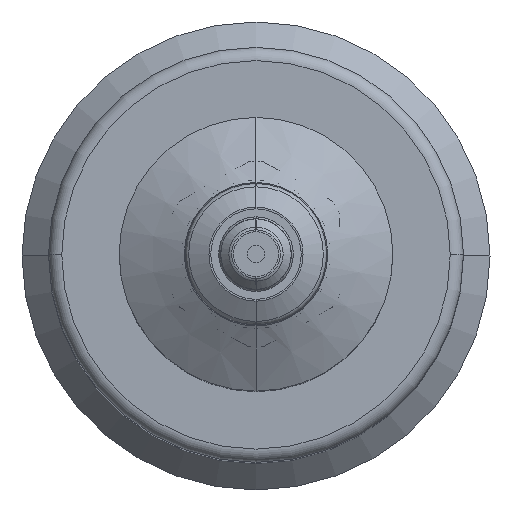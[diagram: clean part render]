
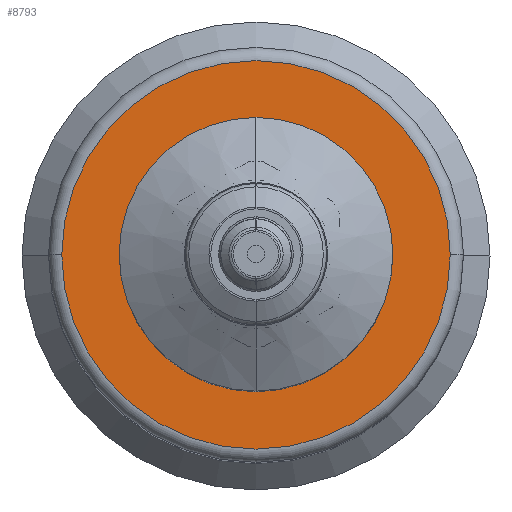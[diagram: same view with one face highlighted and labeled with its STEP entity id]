
A CAD part, top view. The second image highlights one B-rep face of the part: STEP entity #8793.
In plain terms, the highlighted planar face has unit normal (0, 0, 1).
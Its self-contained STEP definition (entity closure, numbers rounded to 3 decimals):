
#548 = CARTESIAN_POINT ( 'NONE',  ( 0., 0., 195. ) ) ;
#561 = AXIS2_PLACEMENT_3D ( 'NONE', #581, #11638, #2201 ) ;
#581 = CARTESIAN_POINT ( 'NONE',  ( 0., 0., 195. ) ) ;
#1373 = CARTESIAN_POINT ( 'NONE',  ( 0., 0., 195. ) ) ;
#1962 = CARTESIAN_POINT ( 'NONE',  ( -44., 0., 195. ) ) ;
#2173 = DIRECTION ( 'NONE',  ( 1., 0., 0. ) ) ;
#2201 = DIRECTION ( 'NONE',  ( 1., 0., 0. ) ) ;
#2374 = FACE_OUTER_BOUND ( 'NONE', #19305, .T. ) ;
#2421 = ORIENTED_EDGE ( 'NONE', *, *, #16399, .F. ) ;
#2963 = DIRECTION ( 'NONE',  ( 1., 0., 0. ) ) ;
#2996 = CARTESIAN_POINT ( 'NONE',  ( 31., 0., 195. ) ) ;
#3254 = CARTESIAN_POINT ( 'NONE',  ( 0., 0., 195. ) ) ;
#4209 = EDGE_CURVE ( 'NONE', #9161, #16322, #5475, .T. ) ;
#4662 = AXIS2_PLACEMENT_3D ( 'NONE', #15076, #5607, #16637 ) ;
#4806 = DIRECTION ( 'NONE',  ( 1., 0., 0. ) ) ;
#5475 = CIRCLE ( 'NONE', #8294, 44. ) ;
#5480 = CIRCLE ( 'NONE', #561, 44. ) ;
#5607 = DIRECTION ( 'NONE',  ( 0., 0., 1. ) ) ;
#5732 = CIRCLE ( 'NONE', #4662, 31. ) ;
#5913 = CARTESIAN_POINT ( 'NONE',  ( -31., 0., 195. ) ) ;
#6050 = FACE_BOUND ( 'NONE', #7064, .T. ) ;
#6973 = VERTEX_POINT ( 'NONE', #2996 ) ;
#7064 = EDGE_LOOP ( 'NONE', ( #14787, #2421 ) ) ;
#7229 = EDGE_CURVE ( 'NONE', #16322, #9161, #5480, .T. ) ;
#8294 = AXIS2_PLACEMENT_3D ( 'NONE', #1373, #12372, #2963 ) ;
#8793 = ADVANCED_FACE ( 'NONE', ( #6050, #2374 ), #15816, .F. ) ;
#9161 = VERTEX_POINT ( 'NONE', #15600 ) ;
#10649 = VERTEX_POINT ( 'NONE', #5913 ) ;
#11336 = ORIENTED_EDGE ( 'NONE', *, *, #7229, .F. ) ;
#11608 = DIRECTION ( 'NONE',  ( 0., 0., 1. ) ) ;
#11638 = DIRECTION ( 'NONE',  ( 0., 0., -1. ) ) ;
#12372 = DIRECTION ( 'NONE',  ( 0., 0., -1. ) ) ;
#13574 = ORIENTED_EDGE ( 'NONE', *, *, #4209, .F. ) ;
#14246 = CIRCLE ( 'NONE', #19426, 31. ) ;
#14284 = DIRECTION ( 'NONE',  ( 0., 0., -1. ) ) ;
#14779 = EDGE_CURVE ( 'NONE', #10649, #6973, #5732, .T. ) ;
#14787 = ORIENTED_EDGE ( 'NONE', *, *, #14779, .F. ) ;
#15076 = CARTESIAN_POINT ( 'NONE',  ( 0., 0., 195. ) ) ;
#15600 = CARTESIAN_POINT ( 'NONE',  ( 44., 0., 195. ) ) ;
#15816 = PLANE ( 'NONE',  #16763 ) ;
#16322 = VERTEX_POINT ( 'NONE', #1962 ) ;
#16399 = EDGE_CURVE ( 'NONE', #6973, #10649, #14246, .T. ) ;
#16637 = DIRECTION ( 'NONE',  ( 1., 0., 0. ) ) ;
#16763 = AXIS2_PLACEMENT_3D ( 'NONE', #3254, #14284, #4806 ) ;
#19305 = EDGE_LOOP ( 'NONE', ( #13574, #11336 ) ) ;
#19426 = AXIS2_PLACEMENT_3D ( 'NONE', #548, #11608, #2173 ) ;
